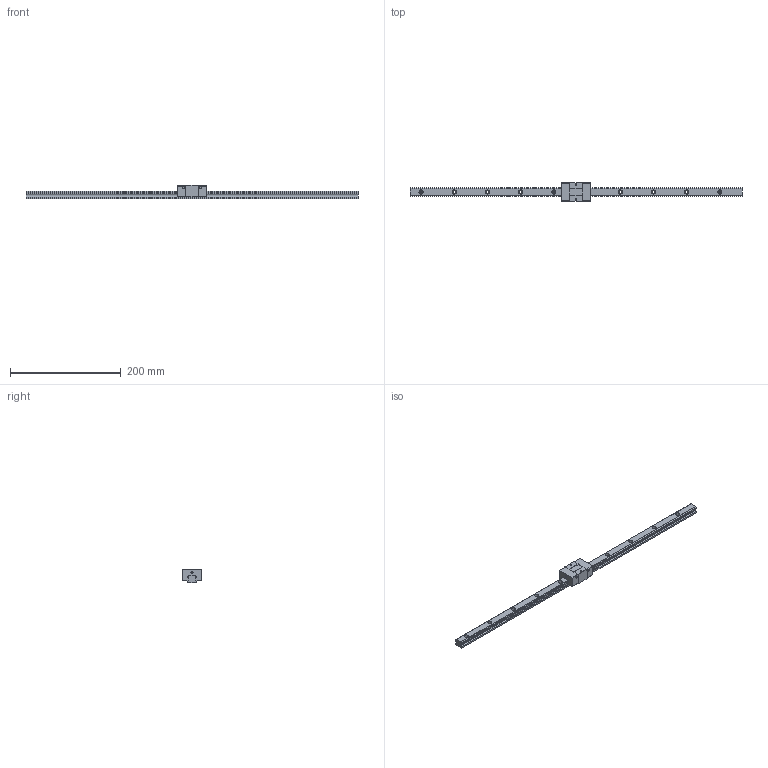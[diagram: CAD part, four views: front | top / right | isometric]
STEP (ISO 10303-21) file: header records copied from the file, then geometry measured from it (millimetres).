
FILE_DESCRIPTION (( 'STEP AP203' ), '1' );
FILE_NAME ('TRS15VS-SZ.STEP', '2024-07-11T08:20:50', ( '' ), ( '' ), 'SwSTEP 2.0', 'SolidWorks 2022', '' );
FILE_SCHEMA (( 'CONFIG_CONTROL_DESIGN' ));
Length unit declared in the file: millimetre
Products named in the file (1): TRS15VS-SZ
Bounding box: 600 x 34 x 24 mm (x, y, z)
Volume: 129575.1 mm3; surface area: 45427.7 mm2
Topology: 2 solids, 2 shells, 186 faces, 484 edges, 320 vertices
Faces by surface type: plane 94, cylinder 92
Entity records: 5863 total; most frequent: DIRECTION 1042, CARTESIAN_POINT 991, ORIENTED_EDGE 968, EDGE_CURVE 484, AXIS2_PLACEMENT_3D 371, VERTEX_POINT 320, LINE 300, VECTOR 300
